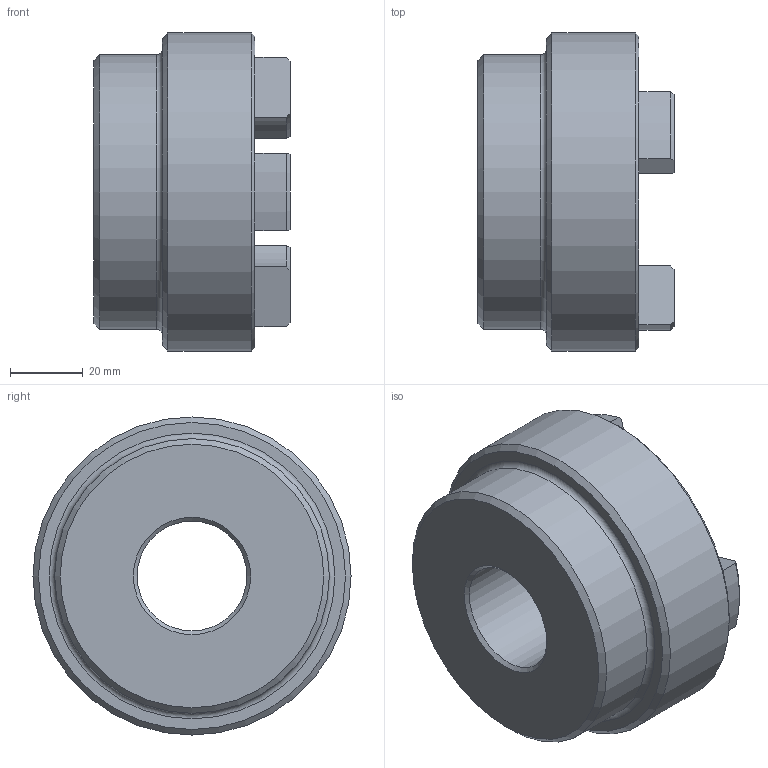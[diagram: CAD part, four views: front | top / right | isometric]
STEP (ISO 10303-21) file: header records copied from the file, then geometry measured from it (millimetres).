
FILE_DESCRIPTION (( 'STEP AP203' ), '1' );
FILE_NAME ('RC3.step', '2024-07-24T12:48:01', ( 'Adlan' ), ( '' ), 'SwSTEP 2.0', 'SolidWorks 2013', '' );
FILE_SCHEMA (( 'CONFIG_CONTROL_DESIGN' ));
Length unit declared in the file: inch
Products named in the file (1): RC3
Bounding box: 53.85 x 87.38 x 87.38 mm (x, y, z)
Volume: 173025.3 mm3; surface area: 29763.8 mm2
Topology: 1 solids, 1 shells, 60 faces, 146 edges, 90 vertices
Faces by surface type: cylinder 24, plane 13, torus 13, cone 10
Full cylindrical faces by diameter (mm): 30.175 x1, 75.438 x1, 87.376 x1
Entity records: 1841 total; most frequent: CARTESIAN_POINT 341, DIRECTION 324, ORIENTED_EDGE 274, EDGE_CURVE 137, AXIS2_PLACEMENT_3D 132, VERTEX_POINT 89, EDGE_LOOP 72, CIRCLE 71
